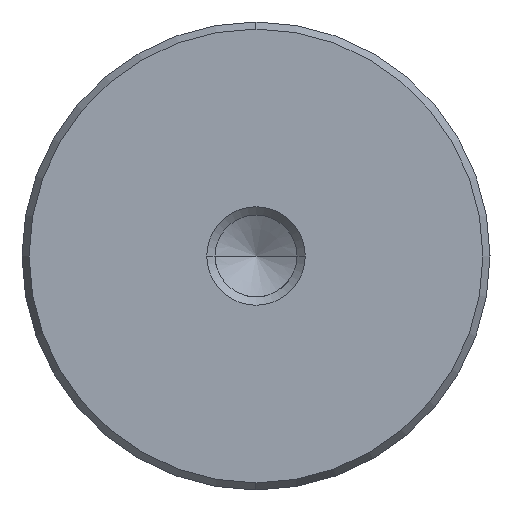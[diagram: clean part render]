
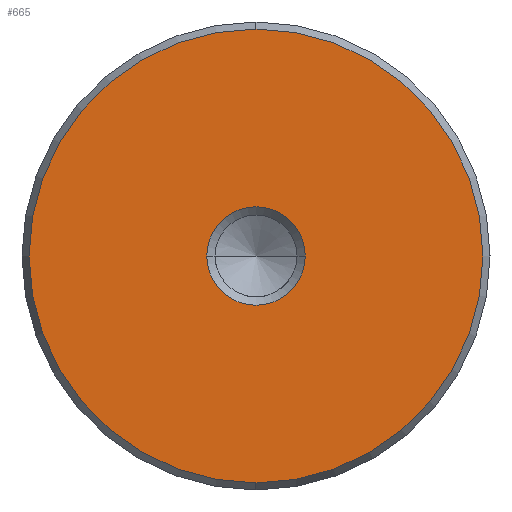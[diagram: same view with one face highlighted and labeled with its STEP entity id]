
A CAD part, left-side view. The second image highlights one B-rep face of the part: STEP entity #665.
In plain terms, the highlighted planar face has unit normal (-1, 0, 0).
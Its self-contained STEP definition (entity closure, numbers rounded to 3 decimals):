
#579=CARTESIAN_POINT('Vertex',(0.,0.,-18.423)) ;
#582=CARTESIAN_POINT('Axis2P3D Location',(0.,0.,0.)) ;
#586=CARTESIAN_POINT('Vertex',(0.,18.423,0.)) ;
#589=CARTESIAN_POINT('Axis2P3D Location',(0.,0.,0.)) ;
#593=CARTESIAN_POINT('Vertex',(0.,0.,18.423)) ;
#615=CARTESIAN_POINT('Axis2P3D Location',(0.,0.,0.)) ;
#619=CARTESIAN_POINT('Vertex',(0.,-18.423,0.)) ;
#622=CARTESIAN_POINT('Axis2P3D Location',(0.,0.,0.)) ;
#636=CARTESIAN_POINT('Axis2P3D Location',(0.,0.,0.)) ;
#647=CARTESIAN_POINT('Axis2P3D Location',(0.,0.,0.)) ;
#651=CARTESIAN_POINT('Vertex',(0.,4.,0.)) ;
#653=CARTESIAN_POINT('Vertex',(0.,-4.,0.)) ;
#656=CARTESIAN_POINT('Axis2P3D Location',(0.,0.,0.)) ;
#583=DIRECTION('Axis2P3D Direction',(1.,0.,-0.)) ;
#590=DIRECTION('Axis2P3D Direction',(1.,0.,-0.)) ;
#616=DIRECTION('Axis2P3D Direction',(1.,0.,-0.)) ;
#623=DIRECTION('Axis2P3D Direction',(1.,0.,-0.)) ;
#637=DIRECTION('Axis2P3D Direction',(1.,0.,-0.)) ;
#638=DIRECTION('Axis2P3D XDirection',(-0.,0.,-1.)) ;
#648=DIRECTION('Axis2P3D Direction',(1.,0.,-0.)) ;
#657=DIRECTION('Axis2P3D Direction',(1.,0.,-0.)) ;
#584=AXIS2_PLACEMENT_3D('Circle Axis2P3D',#582,#583,$) ;
#591=AXIS2_PLACEMENT_3D('Circle Axis2P3D',#589,#590,$) ;
#617=AXIS2_PLACEMENT_3D('Circle Axis2P3D',#615,#616,$) ;
#624=AXIS2_PLACEMENT_3D('Circle Axis2P3D',#622,#623,$) ;
#639=AXIS2_PLACEMENT_3D('Plane Axis2P3D',#636,#637,#638) ;
#649=AXIS2_PLACEMENT_3D('Circle Axis2P3D',#647,#648,$) ;
#658=AXIS2_PLACEMENT_3D('Circle Axis2P3D',#656,#657,$) ;
#642=ORIENTED_EDGE('',*,*,#588,.F.) ;
#643=ORIENTED_EDGE('',*,*,#626,.F.) ;
#644=ORIENTED_EDGE('',*,*,#621,.F.) ;
#645=ORIENTED_EDGE('',*,*,#595,.F.) ;
#662=ORIENTED_EDGE('',*,*,#655,.T.) ;
#663=ORIENTED_EDGE('',*,*,#660,.T.) ;
#664=FACE_BOUND('',#661,.T.) ;
#665=ADVANCED_FACE('720-38x315',(#646,#664),#640,.F.) ;
#585=CIRCLE('generated circle',#584,18.423) ;
#592=CIRCLE('generated circle',#591,18.423) ;
#618=CIRCLE('generated circle',#617,18.423) ;
#625=CIRCLE('generated circle',#624,18.423) ;
#650=CIRCLE('generated circle',#649,4.) ;
#659=CIRCLE('generated circle',#658,4.) ;
#588=EDGE_CURVE('',#580,#587,#585,.T.) ;
#595=EDGE_CURVE('',#587,#594,#592,.T.) ;
#621=EDGE_CURVE('',#594,#620,#618,.T.) ;
#626=EDGE_CURVE('',#620,#580,#625,.T.) ;
#655=EDGE_CURVE('',#652,#654,#650,.T.) ;
#660=EDGE_CURVE('',#654,#652,#659,.T.) ;
#641=EDGE_LOOP('',(#642,#643,#644,#645)) ;
#661=EDGE_LOOP('',(#662,#663)) ;
#646=FACE_OUTER_BOUND('',#641,.T.) ;
#640=PLANE('Plane',#639) ;
#580=VERTEX_POINT('',#579) ;
#587=VERTEX_POINT('',#586) ;
#594=VERTEX_POINT('',#593) ;
#620=VERTEX_POINT('',#619) ;
#652=VERTEX_POINT('',#651) ;
#654=VERTEX_POINT('',#653) ;
